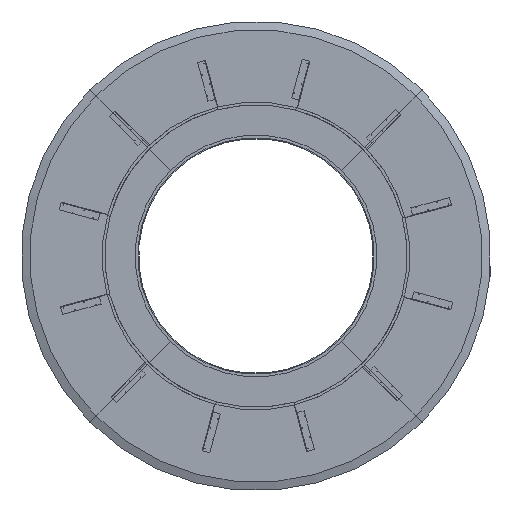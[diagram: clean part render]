
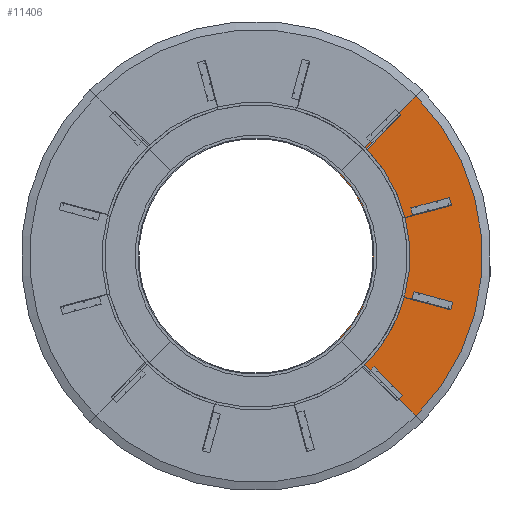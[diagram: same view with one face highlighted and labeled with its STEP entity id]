
A CAD part, front view. The second image highlights one B-rep face of the part: STEP entity #11406.
In plain terms, the highlighted planar face has unit normal (0, -1, 0).
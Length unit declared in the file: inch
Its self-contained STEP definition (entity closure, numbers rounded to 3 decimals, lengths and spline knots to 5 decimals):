
#1600=FACE_BOUND('',#2756,.T.);
#1692=PLANE('',#12513);
#2210=FACE_OUTER_BOUND('',#2755,.T.);
#2755=EDGE_LOOP('',(#8019,#8020,#8021,#8022));
#2756=EDGE_LOOP('',(#8023,#8024,#8025,#8026));
#3367=CIRCLE('',#12492,63.59596);
#3373=CIRCLE('',#12510,33.);
#3817=LINE('',#17481,#4693);
#3822=LINE('',#17502,#4698);
#3826=LINE('',#17510,#4702);
#3829=LINE('',#17516,#4705);
#3832=LINE('',#17521,#4708);
#3836=LINE('',#17528,#4712);
#4693=VECTOR('',#13881,0.3937);
#4698=VECTOR('',#13904,0.3937);
#4702=VECTOR('',#13910,0.3937);
#4705=VECTOR('',#13915,0.3937);
#4708=VECTOR('',#13920,0.3937);
#4712=VECTOR('',#13926,0.3937);
#5565=VERTEX_POINT('',#17465);
#5568=VERTEX_POINT('',#17470);
#5571=VERTEX_POINT('',#17480);
#5577=VERTEX_POINT('',#17500);
#5578=VERTEX_POINT('',#17501);
#5581=VERTEX_POINT('',#17509);
#5583=VERTEX_POINT('',#17515);
#5586=VERTEX_POINT('',#17526);
#6516=EDGE_CURVE('',#5568,#5565,#3367,.T.);
#6520=EDGE_CURVE('',#5565,#5571,#3817,.T.);
#6529=EDGE_CURVE('',#5577,#5578,#3822,.T.);
#6533=EDGE_CURVE('',#5578,#5581,#3826,.T.);
#6536=EDGE_CURVE('',#5581,#5583,#3829,.T.);
#6539=EDGE_CURVE('',#5583,#5577,#3832,.T.);
#6543=EDGE_CURVE('',#5586,#5568,#3836,.T.);
#6544=EDGE_CURVE('',#5571,#5586,#3373,.T.);
#8019=ORIENTED_EDGE('',*,*,#6516,.F.);
#8020=ORIENTED_EDGE('',*,*,#6543,.F.);
#8021=ORIENTED_EDGE('',*,*,#6544,.F.);
#8022=ORIENTED_EDGE('',*,*,#6520,.F.);
#8023=ORIENTED_EDGE('',*,*,#6536,.T.);
#8024=ORIENTED_EDGE('',*,*,#6539,.T.);
#8025=ORIENTED_EDGE('',*,*,#6529,.T.);
#8026=ORIENTED_EDGE('',*,*,#6533,.T.);
#11406=ADVANCED_FACE('',(#2210,#1600),#1692,.F.);
#12492=AXIS2_PLACEMENT_3D('',#17472,#13871,#13872);
#12510=AXIS2_PLACEMENT_3D('',#17530,#13929,#13930);
#12513=AXIS2_PLACEMENT_3D('',#17533,#13935,#13936);
#13871=DIRECTION('center_axis',(0.,1.,0.));
#13872=DIRECTION('ref_axis',(1.,0.,0.));
#13881=DIRECTION('',(-1.,0.,0.));
#13904=DIRECTION('',(0.707,0.,0.707));
#13910=DIRECTION('',(0.707,0.,-0.707));
#13915=DIRECTION('',(-0.707,0.,-0.707));
#13920=DIRECTION('',(-0.707,0.,0.707));
#13926=DIRECTION('',(0.,0.,1.));
#13929=DIRECTION('center_axis',(0.,-1.,0.));
#13930=DIRECTION('ref_axis',(1.,0.,0.));
#13935=DIRECTION('center_axis',(0.,1.,0.));
#13936=DIRECTION('ref_axis',(0.,0.,1.));
#17465=CARTESIAN_POINT('',(63.59596,0.,0.));
#17470=CARTESIAN_POINT('',(0.,0.,63.59596));
#17472=CARTESIAN_POINT('Origin',(0.,0.,0.));
#17480=CARTESIAN_POINT('',(33.,0.,0.));
#17481=CARTESIAN_POINT('',(66.,0.,0.));
#17500=CARTESIAN_POINT('',(23.37872,0.,28.94718));
#17501=CARTESIAN_POINT('',(26.5607,0.,32.12916));
#17502=CARTESIAN_POINT('',(28.38823,0.,33.9567));
#17509=CARTESIAN_POINT('',(32.12916,0.,26.5607));
#17510=CARTESIAN_POINT('',(30.73705,0.,27.95281));
#17515=CARTESIAN_POINT('',(28.94718,0.,23.37872));
#17516=CARTESIAN_POINT('',(32.36571,0.,26.79724));
#17521=CARTESIAN_POINT('',(24.77083,0.,27.55507));
#17526=CARTESIAN_POINT('',(0.,0.,33.));
#17528=CARTESIAN_POINT('',(0.,0.,33.));
#17530=CARTESIAN_POINT('Origin',(0.,0.,0.));
#17533=CARTESIAN_POINT('Origin',(33.,0.,33.));
